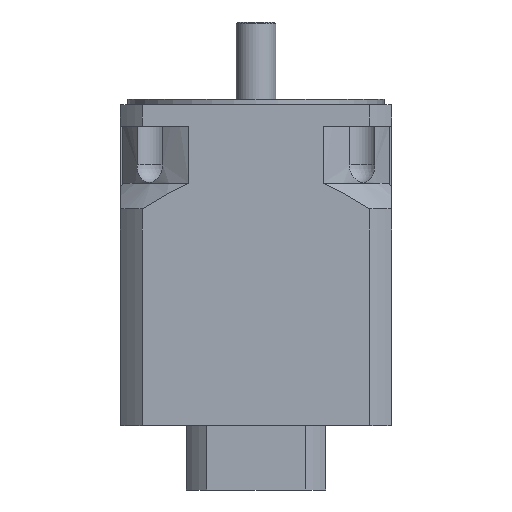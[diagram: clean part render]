
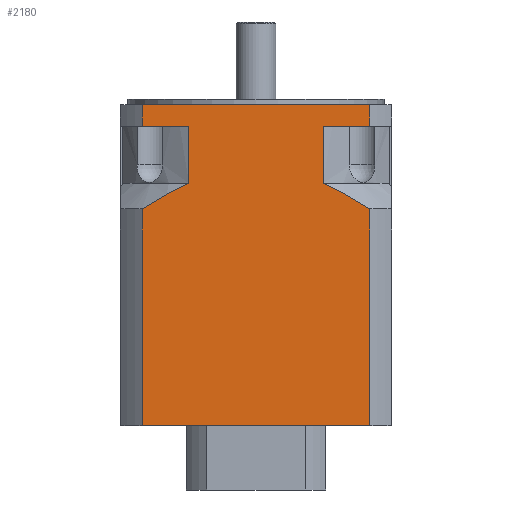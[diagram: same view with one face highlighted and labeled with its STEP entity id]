
A CAD part, front view. The second image highlights one B-rep face of the part: STEP entity #2180.
In plain terms, the highlighted planar face has unit normal (0, -1, 0).
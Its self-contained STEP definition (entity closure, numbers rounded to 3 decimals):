
#860=CARTESIAN_POINT('',(-79.693,-95.,270.0));
#861=VERTEX_POINT('',#860);
#862=CARTESIAN_POINT('',(79.693,-95.,270.0));
#863=VERTEX_POINT('',#862);
#864=CARTESIAN_POINT('',(-79.693,-95.0,270.0));
#865=DIRECTION('',(1.0,0.0,0.0));
#866=VECTOR('',#865,159.386);
#867=LINE('',#864,#866);
#868=EDGE_CURVE('',#861,#863,#867,.T.);
#1015=CARTESIAN_POINT('',(79.693,-95.,255.0));
#1016=VERTEX_POINT('',#1015);
#1017=CARTESIAN_POINT('',(79.693,-95.,270.0));
#1018=DIRECTION('',(0.0,0.0,-1.0));
#1019=VECTOR('',#1018,15.0);
#1020=LINE('',#1017,#1019);
#1021=EDGE_CURVE('',#863,#1016,#1020,.T.);
#1047=CARTESIAN_POINT('',(-79.693,-95.0,255.0));
#1048=VERTEX_POINT('',#1047);
#1049=CARTESIAN_POINT('',(-79.693,-95.0,255.0));
#1050=DIRECTION('',(0.0,0.0,1.0));
#1051=VECTOR('',#1050,15.0);
#1052=LINE('',#1049,#1051);
#1053=EDGE_CURVE('',#1048,#861,#1052,.T.);
#1217=CARTESIAN_POINT('',(47.021,-95.0,255.0));
#1218=VERTEX_POINT('',#1217);
#1219=CARTESIAN_POINT('',(79.693,-95.,255.0));
#1220=DIRECTION('',(-1.0,0.0,0.0));
#1221=VECTOR('',#1220,32.672);
#1222=LINE('',#1219,#1221);
#1223=EDGE_CURVE('',#1016,#1218,#1222,.T.);
#1286=CARTESIAN_POINT('',(-47.021,-95.0,255.0));
#1287=VERTEX_POINT('',#1286);
#1288=CARTESIAN_POINT('',(-47.021,-95.0,255.0));
#1289=DIRECTION('',(-1.0,0.0,0.0));
#1290=VECTOR('',#1289,32.672);
#1291=LINE('',#1288,#1290);
#1292=EDGE_CURVE('',#1287,#1048,#1291,.T.);
#1738=CARTESIAN_POINT('',(47.021,-95.0,215.0));
#1739=VERTEX_POINT('',#1738);
#1747=CARTESIAN_POINT('',(79.693,-95.,197.0));
#1748=VERTEX_POINT('',#1747);
#1749=CARTESIAN_POINT('',(79.693,-95.,197.0));
#1750=CARTESIAN_POINT('',(62.079,-95.0,208.321));
#1751=CARTESIAN_POINT('',(47.021,-95.0,215.0));
#1759=(BOUNDED_CURVE()B_SPLINE_CURVE(2,(#1749,#1750,#1751),.UNSPECIFIED.,.F.,.U.)B_SPLINE_CURVE_WITH_KNOTS((3,3),(0.324,4.1),.UNSPECIFIED.)CURVE()GEOMETRIC_REPRESENTATION_ITEM()RATIONAL_B_SPLINE_CURVE((1.002,1.011,1.0))REPRESENTATION_ITEM(''));
#1760=EDGE_CURVE('',#1748,#1739,#1759,.T.);
#1921=CARTESIAN_POINT('',(47.021,-95.0,215.0));
#1922=DIRECTION('',(0.0,0.0,1.0));
#1923=VECTOR('',#1922,40.0);
#1924=LINE('',#1921,#1923);
#1925=EDGE_CURVE('',#1739,#1218,#1924,.T.);
#1981=CARTESIAN_POINT('',(-47.021,-95.0,215.0));
#1982=VERTEX_POINT('',#1981);
#1990=CARTESIAN_POINT('',(-47.021,-95.0,255.0));
#1991=DIRECTION('',(0.0,0.0,-1.0));
#1992=VECTOR('',#1991,40.0);
#1993=LINE('',#1990,#1992);
#1994=EDGE_CURVE('',#1287,#1982,#1993,.T.);
#2052=CARTESIAN_POINT('',(-79.693,-95.,197.0));
#2053=VERTEX_POINT('',#2052);
#2061=CARTESIAN_POINT('',(-47.021,-95.,215.0));
#2062=CARTESIAN_POINT('',(-62.079,-95.,208.321));
#2063=CARTESIAN_POINT('',(-79.693,-95.,197.0));
#2071=(BOUNDED_CURVE()B_SPLINE_CURVE(2,(#2061,#2062,#2063),.UNSPECIFIED.,.F.,.U.)B_SPLINE_CURVE_WITH_KNOTS((3,3),(0.0,3.776),.UNSPECIFIED.)CURVE()GEOMETRIC_REPRESENTATION_ITEM()RATIONAL_B_SPLINE_CURVE((1.0,1.011,1.002))REPRESENTATION_ITEM(''));
#2072=EDGE_CURVE('',#1982,#2053,#2071,.T.);
#2142=CARTESIAN_POINT('',(95.,-95.,45.0));
#2143=DIRECTION('',(0.0,-1.0,0.0));
#2144=DIRECTION('',(0.0,0.0,-1.0));
#2145=AXIS2_PLACEMENT_3D('',#2142,#2143,#2144);
#2146=PLANE('',#2145);
#2147=ORIENTED_EDGE('',*,*,#1994,.T.);
#2148=ORIENTED_EDGE('',*,*,#2072,.T.);
#2149=CARTESIAN_POINT('',(-79.693,-95.,45.0));
#2150=VERTEX_POINT('',#2149);
#2151=CARTESIAN_POINT('',(-79.693,-95.,45.0));
#2152=DIRECTION('',(0.0,0.0,1.0));
#2153=VECTOR('',#2152,152.0);
#2154=LINE('',#2151,#2153);
#2155=EDGE_CURVE('',#2150,#2053,#2154,.T.);
#2156=ORIENTED_EDGE('',*,*,#2155,.F.);
#2157=CARTESIAN_POINT('',(79.693,-95.,45.0));
#2158=VERTEX_POINT('',#2157);
#2159=CARTESIAN_POINT('',(79.693,-95.0,45.0));
#2160=DIRECTION('',(-1.0,0.0,0.0));
#2161=VECTOR('',#2160,159.386);
#2162=LINE('',#2159,#2161);
#2163=EDGE_CURVE('',#2158,#2150,#2162,.T.);
#2164=ORIENTED_EDGE('',*,*,#2163,.F.);
#2165=CARTESIAN_POINT('',(79.693,-95.,197.0));
#2166=DIRECTION('',(0.0,0.0,-1.0));
#2167=VECTOR('',#2166,152.0);
#2168=LINE('',#2165,#2167);
#2169=EDGE_CURVE('',#1748,#2158,#2168,.T.);
#2170=ORIENTED_EDGE('',*,*,#2169,.F.);
#2171=ORIENTED_EDGE('',*,*,#1760,.T.);
#2172=ORIENTED_EDGE('',*,*,#1925,.T.);
#2173=ORIENTED_EDGE('',*,*,#1223,.F.);
#2174=ORIENTED_EDGE('',*,*,#1021,.F.);
#2175=ORIENTED_EDGE('',*,*,#868,.F.);
#2176=ORIENTED_EDGE('',*,*,#1053,.F.);
#2177=ORIENTED_EDGE('',*,*,#1292,.F.);
#2178=EDGE_LOOP('',(#2147,#2148,#2156,#2164,#2170,#2171,#2172,#2173,#2174,#2175,#2176,#2177));
#2179=FACE_OUTER_BOUND('',#2178,.T.);
#2180=ADVANCED_FACE('',(#2179),#2146,.T.);
